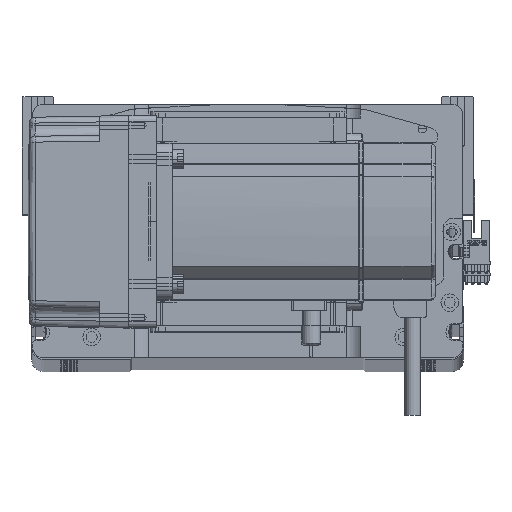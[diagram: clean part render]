
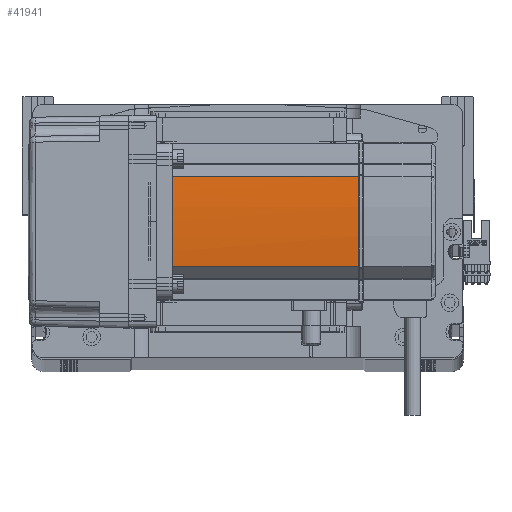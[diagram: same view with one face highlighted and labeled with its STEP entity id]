
A CAD part, top view. The second image highlights one B-rep face of the part: STEP entity #41941.
In plain terms, the highlighted cylindrical face has radius 270 mm (diameter 540 mm), a partial arc.
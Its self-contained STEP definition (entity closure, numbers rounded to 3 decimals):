
#172 = DIRECTION ( 'NONE',  ( 0., 0., -1. ) ) ;
#537 = DIRECTION ( 'NONE',  ( 0., 0., -1. ) ) ;
#804 = AXIS2_PLACEMENT_3D ( 'NONE', #45565, #46568, #46953 ) ;
#5174 = AXIS2_PLACEMENT_3D ( 'NONE', #51158, #172, #23336 ) ;
#5307 = ORIENTED_EDGE ( 'NONE', *, *, #57467, .F. ) ;
#5886 = EDGE_CURVE ( 'NONE', #59498, #28190, #33234, .T. ) ;
#7337 = VECTOR ( 'NONE', #56085, 1000. ) ;
#8261 = CYLINDRICAL_SURFACE ( 'NONE', #804, 270. ) ;
#8405 = EDGE_CURVE ( 'NONE', #59018, #44755, #26340, .T. ) ;
#11611 = CARTESIAN_POINT ( 'NONE',  ( 40., -0.042, 134. ) ) ;
#12684 = ORIENTED_EDGE ( 'NONE', *, *, #44151, .T. ) ;
#15406 = ORIENTED_EDGE ( 'NONE', *, *, #5886, .T. ) ;
#17572 = DIRECTION ( 'NONE',  ( 0., 0., -1. ) ) ;
#17918 = EDGE_CURVE ( 'NONE', #45515, #59018, #21143, .T. ) ;
#18592 = ORIENTED_EDGE ( 'NONE', *, *, #8405, .T. ) ;
#18829 = CARTESIAN_POINT ( 'NONE',  ( 39.042, 22.724, 134. ) ) ;
#19167 = DIRECTION ( 'NONE',  ( -1., 0., 0. ) ) ;
#19485 = LINE ( 'NONE', #28392, #38405 ) ;
#20288 = B_SPLINE_CURVE_WITH_KNOTS ( 'NONE', 3,
 ( #34579, #11611, #57551, #34366 ),
 .UNSPECIFIED., .F., .F.,
 ( 4, 4 ),
 ( 0., 1. ),
 .UNSPECIFIED. ) ;
#21143 = LINE ( 'NONE', #38381, #7337 ) ;
#23336 = DIRECTION ( 'NONE',  ( -1., 0., 0. ) ) ;
#26340 = CIRCLE ( 'NONE', #43856, 270. ) ;
#26692 = ORIENTED_EDGE ( 'NONE', *, *, #17918, .T. ) ;
#28190 = VERTEX_POINT ( 'NONE', #28989 ) ;
#28367 = CARTESIAN_POINT ( 'NONE',  ( -230., 0., 134. ) ) ;
#28392 = CARTESIAN_POINT ( 'NONE',  ( 39.042, -22.724, 58. ) ) ;
#28989 = CARTESIAN_POINT ( 'NONE',  ( 39.042, -22.724, 134. ) ) ;
#33234 = CIRCLE ( 'NONE', #38201, 270. ) ;
#34366 = CARTESIAN_POINT ( 'NONE',  ( 40., 0.127, 134. ) ) ;
#34579 = CARTESIAN_POINT ( 'NONE',  ( 40., -0.127, 134. ) ) ;
#36088 = DIRECTION ( 'NONE',  ( -1., 0., 0. ) ) ;
#36677 = CARTESIAN_POINT ( 'NONE',  ( 40., -0.127, 134. ) ) ;
#37338 = VERTEX_POINT ( 'NONE', #51789 ) ;
#37505 = EDGE_LOOP ( 'NONE', ( #12684, #54554, #26692, #18592, #5307, #15406 ) ) ;
#38116 = CARTESIAN_POINT ( 'NONE',  ( 39.042, 22.724, 39. ) ) ;
#38201 = AXIS2_PLACEMENT_3D ( 'NONE', #45282, #17572, #36088 ) ;
#38381 = CARTESIAN_POINT ( 'NONE',  ( 39.042, 22.724, 58. ) ) ;
#38405 = VECTOR ( 'NONE', #537, 1000. ) ;
#39051 = CARTESIAN_POINT ( 'NONE',  ( 40., 0.127, 134. ) ) ;
#41941 = ADVANCED_FACE ( 'NONE', ( #50506 ), #8261, .T. ) ;
#42208 = DIRECTION ( 'NONE',  ( 0., 0., -1. ) ) ;
#43856 = AXIS2_PLACEMENT_3D ( 'NONE', #28367, #42208, #19167 ) ;
#44151 = EDGE_CURVE ( 'NONE', #28190, #37338, #19485, .T. ) ;
#44755 = VERTEX_POINT ( 'NONE', #39051 ) ;
#45282 = CARTESIAN_POINT ( 'NONE',  ( -230., 0., 134. ) ) ;
#45515 = VERTEX_POINT ( 'NONE', #38116 ) ;
#45565 = CARTESIAN_POINT ( 'NONE',  ( -230., 0., 58. ) ) ;
#45931 = CIRCLE ( 'NONE', #5174, 270. ) ;
#46568 = DIRECTION ( 'NONE',  ( 0., 0., -1. ) ) ;
#46953 = DIRECTION ( 'NONE',  ( -1., 0., 0. ) ) ;
#48357 = EDGE_CURVE ( 'NONE', #45515, #37338, #45931, .T. ) ;
#50506 = FACE_OUTER_BOUND ( 'NONE', #37505, .T. ) ;
#51158 = CARTESIAN_POINT ( 'NONE',  ( -230., 0., 39. ) ) ;
#51789 = CARTESIAN_POINT ( 'NONE',  ( 39.042, -22.724, 39. ) ) ;
#54554 = ORIENTED_EDGE ( 'NONE', *, *, #48357, .F. ) ;
#56085 = DIRECTION ( 'NONE',  ( 0., 0., 1. ) ) ;
#57467 = EDGE_CURVE ( 'NONE', #59498, #44755, #20288, .T. ) ;
#57551 = CARTESIAN_POINT ( 'NONE',  ( 40., 0.042, 134. ) ) ;
#59018 = VERTEX_POINT ( 'NONE', #18829 ) ;
#59498 = VERTEX_POINT ( 'NONE', #36677 ) ;
